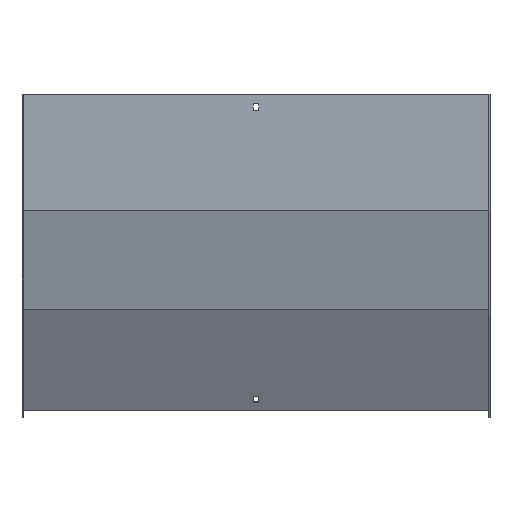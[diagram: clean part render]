
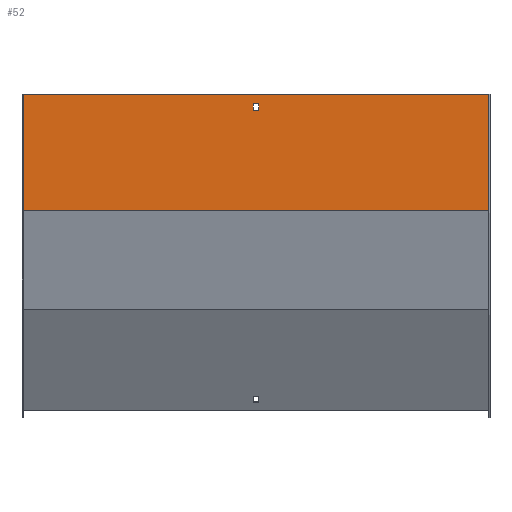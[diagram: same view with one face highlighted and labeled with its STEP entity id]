
A CAD part, front view. The second image highlights one B-rep face of the part: STEP entity #52.
In plain terms, the highlighted planar face has unit normal (0, -1, 0).
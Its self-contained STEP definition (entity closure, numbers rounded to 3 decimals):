
#16 = VERTEX_POINT ( 'NONE', #646 ) ;
#17 = CARTESIAN_POINT ( 'NONE',  ( -300., -1.5, 0. ) ) ;
#52 = ADVANCED_FACE ( 'NONE', ( #651, #841 ), #129, .F. ) ;
#62 = EDGE_CURVE ( 'NONE', #238, #596, #795, .T. ) ;
#84 = ORIENTED_EDGE ( 'NONE', *, *, #543, .F. ) ;
#107 = LINE ( 'NONE', #502, #212 ) ;
#111 = VECTOR ( 'NONE', #723, 1000. ) ;
#114 = VERTEX_POINT ( 'NONE', #621 ) ;
#123 = CARTESIAN_POINT ( 'NONE',  ( -300., -1.5, -150.097 ) ) ;
#129 = PLANE ( 'NONE',  #518 ) ;
#139 = LINE ( 'NONE', #270, #588 ) ;
#140 = DIRECTION ( 'NONE',  ( 0., 0., -1. ) ) ;
#157 = CARTESIAN_POINT ( 'NONE',  ( 300., -1.5, 0. ) ) ;
#158 = EDGE_CURVE ( 'NONE', #238, #753, #354, .T. ) ;
#185 = DIRECTION ( 'NONE',  ( -1., 0., 0. ) ) ;
#187 = VECTOR ( 'NONE', #419, 1000. ) ;
#209 = DIRECTION ( 'NONE',  ( 0., 0., -1. ) ) ;
#212 = VECTOR ( 'NONE', #237, 1000. ) ;
#224 = ORIENTED_EDGE ( 'NONE', *, *, #62, .T. ) ;
#237 = DIRECTION ( 'NONE',  ( 1., 0., 0. ) ) ;
#238 = VERTEX_POINT ( 'NONE', #157 ) ;
#239 = VECTOR ( 'NONE', #209, 1000. ) ;
#251 = CARTESIAN_POINT ( 'NONE',  ( 301.5, -1.5, 0. ) ) ;
#259 = EDGE_LOOP ( 'NONE', ( #426, #509, #84, #604 ) ) ;
#270 = CARTESIAN_POINT ( 'NONE',  ( 3.25, -1.5, 0. ) ) ;
#275 = DIRECTION ( 'NONE',  ( 0., 0., 1. ) ) ;
#309 = VERTEX_POINT ( 'NONE', #123 ) ;
#347 = LINE ( 'NONE', #398, #504 ) ;
#353 = CARTESIAN_POINT ( 'NONE',  ( -3.25, -1.5, 0. ) ) ;
#354 = LINE ( 'NONE', #608, #187 ) ;
#356 = LINE ( 'NONE', #407, #111 ) ;
#378 = ORIENTED_EDGE ( 'NONE', *, *, #515, .T. ) ;
#398 = CARTESIAN_POINT ( 'NONE',  ( -300., -1.5, 0. ) ) ;
#399 = DIRECTION ( 'NONE',  ( 0., 1., 0. ) ) ;
#407 = CARTESIAN_POINT ( 'NONE',  ( 301.5, -1.5, -12. ) ) ;
#411 = ORIENTED_EDGE ( 'NONE', *, *, #158, .F. ) ;
#419 = DIRECTION ( 'NONE',  ( 0., 0., -1. ) ) ;
#426 = ORIENTED_EDGE ( 'NONE', *, *, #607, .F. ) ;
#446 = VERTEX_POINT ( 'NONE', #656 ) ;
#474 = LINE ( 'NONE', #353, #239 ) ;
#502 = CARTESIAN_POINT ( 'NONE',  ( 301.5, -1.5, -21. ) ) ;
#504 = VECTOR ( 'NONE', #140, 1000. ) ;
#508 = CARTESIAN_POINT ( 'NONE',  ( 3.25, -1.5, -12. ) ) ;
#509 = ORIENTED_EDGE ( 'NONE', *, *, #724, .F. ) ;
#515 = EDGE_CURVE ( 'NONE', #596, #309, #347, .T. ) ;
#518 = AXIS2_PLACEMENT_3D ( 'NONE', #710, #399, #721 ) ;
#543 = EDGE_CURVE ( 'NONE', #446, #114, #474, .T. ) ;
#581 = EDGE_CURVE ( 'NONE', #784, #446, #356, .T. ) ;
#588 = VECTOR ( 'NONE', #275, 1000. ) ;
#591 = ORIENTED_EDGE ( 'NONE', *, *, #739, .F. ) ;
#596 = VERTEX_POINT ( 'NONE', #17 ) ;
#604 = ORIENTED_EDGE ( 'NONE', *, *, #581, .F. ) ;
#607 = EDGE_CURVE ( 'NONE', #16, #784, #139, .T. ) ;
#608 = CARTESIAN_POINT ( 'NONE',  ( 300., -1.5, 0. ) ) ;
#615 = LINE ( 'NONE', #697, #745 ) ;
#621 = CARTESIAN_POINT ( 'NONE',  ( -3.25, -1.5, -21. ) ) ;
#632 = DIRECTION ( 'NONE',  ( -1., 0., 0. ) ) ;
#641 = CARTESIAN_POINT ( 'NONE',  ( 300., -1.5, -150.097 ) ) ;
#646 = CARTESIAN_POINT ( 'NONE',  ( 3.25, -1.5, -21. ) ) ;
#651 = FACE_OUTER_BOUND ( 'NONE', #688, .T. ) ;
#656 = CARTESIAN_POINT ( 'NONE',  ( -3.25, -1.5, -12. ) ) ;
#688 = EDGE_LOOP ( 'NONE', ( #378, #591, #411, #224 ) ) ;
#697 = CARTESIAN_POINT ( 'NONE',  ( 301.5, -1.5, -150.097 ) ) ;
#710 = CARTESIAN_POINT ( 'NONE',  ( 301.5, -1.5, 0. ) ) ;
#721 = DIRECTION ( 'NONE',  ( 0., 0., 1. ) ) ;
#723 = DIRECTION ( 'NONE',  ( -1., 0., 0. ) ) ;
#724 = EDGE_CURVE ( 'NONE', #114, #16, #107, .T. ) ;
#739 = EDGE_CURVE ( 'NONE', #753, #309, #615, .T. ) ;
#745 = VECTOR ( 'NONE', #632, 1000. ) ;
#753 = VERTEX_POINT ( 'NONE', #641 ) ;
#784 = VERTEX_POINT ( 'NONE', #508 ) ;
#795 = LINE ( 'NONE', #251, #845 ) ;
#841 = FACE_BOUND ( 'NONE', #259, .T. ) ;
#845 = VECTOR ( 'NONE', #185, 1000. ) ;
